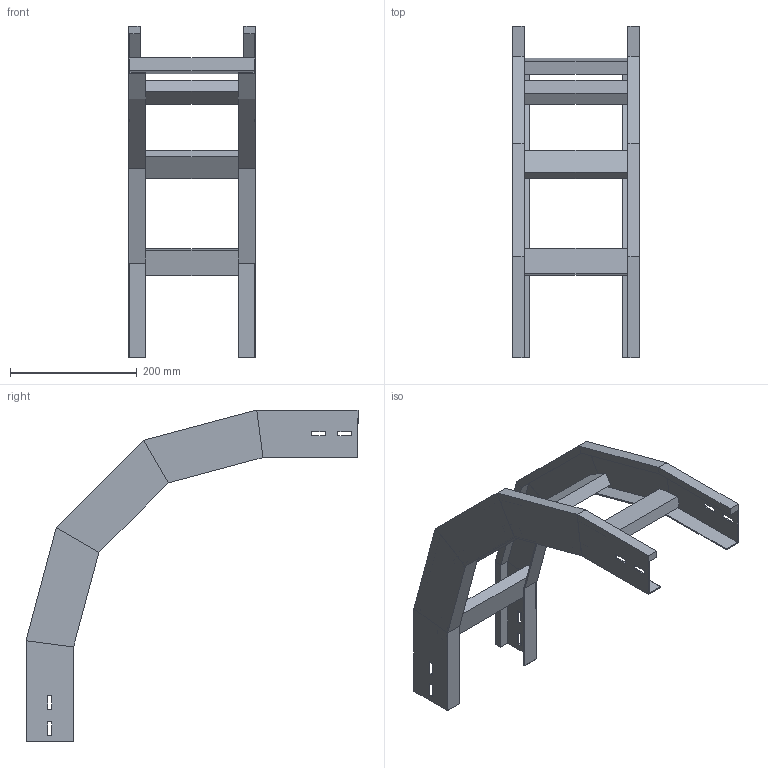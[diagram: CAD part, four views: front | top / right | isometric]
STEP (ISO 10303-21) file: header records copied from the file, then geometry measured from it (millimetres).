
FILE_DESCRIPTION (( 'STEP AP214' ), '1' );
FILE_NAME ('A2_33B3C200.step', '2025-02-21T15:05:23', ( '' ), ( '' ), 'SwSTEP 2.0', 'SolidWorks 2023', '' );
FILE_SCHEMA (( 'AUTOMOTIVE_DESIGN' ));
Length unit declared in the file: millimetre
Products named in the file (3): TRAVERSINO_200; LONGH.DISCESA_90°_H75_R300; A2_33B3C200
Assembly tree (6 placements, depth 2):
  A2_33B3C200
    LONGH.DISCESA_90°_H75_R300  x2
    TRAVERSINO_200  x4
Bounding box: 200 x 524.44 x 524.44 mm (x, y, z)
Volume: 1292829.3 mm3; surface area: 488136 mm2
Topology: 6 solids, 6 shells, 140 faces, 320 edges, 192 vertices
Faces by surface type: plane 140
Entity records: 1872 total; most frequent: CARTESIAN_POINT 309, ORIENTED_EDGE 296, DIRECTION 294, VECTOR 148, EDGE_CURVE 148, LINE 148, VERTEX_POINT 88, AXIS2_PLACEMENT_3D 73
